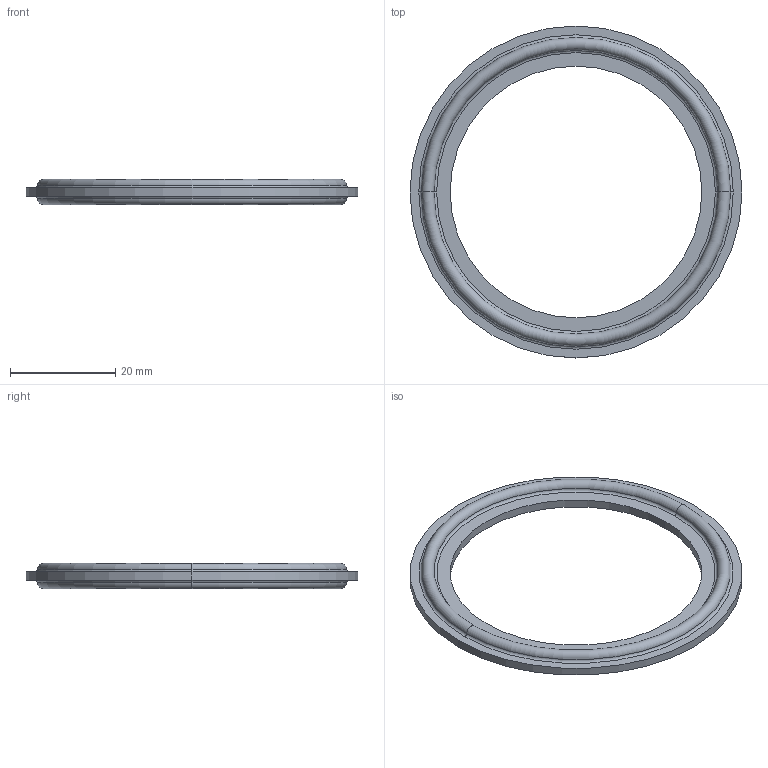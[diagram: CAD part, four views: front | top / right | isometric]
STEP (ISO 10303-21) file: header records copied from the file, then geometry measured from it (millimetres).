
FILE_DESCRIPTION (( 'STEP AP214' ), '1' );
FILE_NAME ('EG40 2.0 GASKET.STEP', '2024-10-10T10:28:13', ( '' ), ( '' ), 'SwSTEP 2.0', 'SolidWorks 2021', '' );
FILE_SCHEMA (( 'AUTOMOTIVE_DESIGN' ));
Length unit declared in the file: inch
Products named in the file (1): EG40 2.0 GASKET
Bounding box: 63.06 x 63.06 x 4.79 mm (x, y, z)
Volume: 3282.3 mm3; surface area: 3826.8 mm2
Topology: 1 solids, 1 shells, 20 faces, 40 edges, 24 vertices
Faces by surface type: torus 12, cylinder 4, plane 4
Entity records: 580 total; most frequent: DIRECTION 118, CARTESIAN_POINT 85, ORIENTED_EDGE 80, AXIS2_PLACEMENT_3D 57, EDGE_CURVE 40, CIRCLE 36, EDGE_LOOP 24, VERTEX_POINT 24
